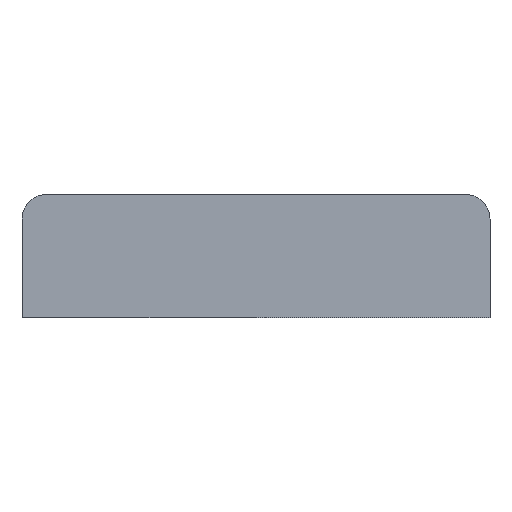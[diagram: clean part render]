
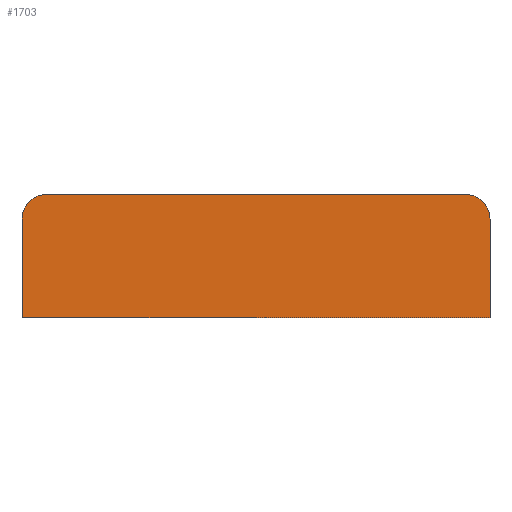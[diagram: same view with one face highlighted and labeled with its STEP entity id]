
A CAD part, front view. The second image highlights one B-rep face of the part: STEP entity #1703.
In plain terms, the highlighted planar face has unit normal (0, -1, 0).
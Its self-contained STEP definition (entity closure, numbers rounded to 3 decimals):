
#23 = EDGE_LOOP ( 'NONE', ( #4854, #3755, #3621, #241, #1923, #709 ) ) ;
#93 = VERTEX_POINT ( 'NONE', #931 ) ;
#108 = CARTESIAN_POINT ( 'NONE',  ( 2., 0., 8. ) ) ;
#124 = VERTEX_POINT ( 'NONE', #3386 ) ;
#137 = PLANE ( 'NONE',  #3930 ) ;
#167 = CARTESIAN_POINT ( 'NONE',  ( 0., 0., 4. ) ) ;
#235 = VERTEX_POINT ( 'NONE', #2213 ) ;
#241 = ORIENTED_EDGE ( 'NONE', *, *, #1345, .F. ) ;
#441 = EDGE_CURVE ( 'NONE', #5180, #2978, #2181, .T. ) ;
#572 = DIRECTION ( 'NONE',  ( 0., 0., -1. ) ) ;
#625 = EDGE_CURVE ( 'NONE', #2978, #3099, #3248, .T. ) ;
#709 = ORIENTED_EDGE ( 'NONE', *, *, #441, .F. ) ;
#918 = CARTESIAN_POINT ( 'NONE',  ( 0., 0., 8. ) ) ;
#931 = CARTESIAN_POINT ( 'NONE',  ( 38., 0., 0. ) ) ;
#1345 = EDGE_CURVE ( 'NONE', #3099, #235, #3304, .T. ) ;
#1354 = DIRECTION ( 'NONE',  ( 1., 0., 0. ) ) ;
#1355 = CARTESIAN_POINT ( 'NONE',  ( 19., 0., 10. ) ) ;
#1397 = VECTOR ( 'NONE', #2196, 1000. ) ;
#1703 = ADVANCED_FACE ( 'NONE', ( #4207 ), #137, .T. ) ;
#1763 = CARTESIAN_POINT ( 'NONE',  ( 19., 0., 0. ) ) ;
#1861 = CARTESIAN_POINT ( 'NONE',  ( 0., 0., 0. ) ) ;
#1923 = ORIENTED_EDGE ( 'NONE', *, *, #625, .F. ) ;
#2087 = LINE ( 'NONE', #2877, #2935 ) ;
#2181 = CIRCLE ( 'NONE', #4639, 2. ) ;
#2196 = DIRECTION ( 'NONE',  ( 1., 0., 0. ) ) ;
#2213 = CARTESIAN_POINT ( 'NONE',  ( 38., 0., 8. ) ) ;
#2270 = VECTOR ( 'NONE', #4302, 1000. ) ;
#2318 = DIRECTION ( 'NONE',  ( 0., 0., 1. ) ) ;
#2423 = CARTESIAN_POINT ( 'NONE',  ( 2., 0., 10. ) ) ;
#2482 = CARTESIAN_POINT ( 'NONE',  ( 36., 0., 10. ) ) ;
#2877 = CARTESIAN_POINT ( 'NONE',  ( 38., 0., 4. ) ) ;
#2935 = VECTOR ( 'NONE', #3303, 1000. ) ;
#2938 = EDGE_CURVE ( 'NONE', #124, #5180, #4431, .T. ) ;
#2978 = VERTEX_POINT ( 'NONE', #2423 ) ;
#3087 = EDGE_CURVE ( 'NONE', #93, #235, #2087, .T. ) ;
#3099 = VERTEX_POINT ( 'NONE', #2482 ) ;
#3129 = DIRECTION ( 'NONE',  ( 0., -1., 0. ) ) ;
#3153 = DIRECTION ( 'NONE',  ( 0., 1., 0. ) ) ;
#3248 = LINE ( 'NONE', #1355, #2270 ) ;
#3303 = DIRECTION ( 'NONE',  ( 0., 0., 1. ) ) ;
#3304 = CIRCLE ( 'NONE', #4064, 2. ) ;
#3336 = VECTOR ( 'NONE', #2318, 1000. ) ;
#3386 = CARTESIAN_POINT ( 'NONE',  ( 0., 0., 0. ) ) ;
#3621 = ORIENTED_EDGE ( 'NONE', *, *, #3087, .T. ) ;
#3755 = ORIENTED_EDGE ( 'NONE', *, *, #4701, .T. ) ;
#3863 = DIRECTION ( 'NONE',  ( 1., 0., 0. ) ) ;
#3930 = AXIS2_PLACEMENT_3D ( 'NONE', #1861, #3129, #572 ) ;
#4064 = AXIS2_PLACEMENT_3D ( 'NONE', #4280, #3153, #3863 ) ;
#4207 = FACE_OUTER_BOUND ( 'NONE', #23, .T. ) ;
#4280 = CARTESIAN_POINT ( 'NONE',  ( 36., 0., 8. ) ) ;
#4302 = DIRECTION ( 'NONE',  ( 1., 0., 0. ) ) ;
#4431 = LINE ( 'NONE', #167, #3336 ) ;
#4639 = AXIS2_PLACEMENT_3D ( 'NONE', #108, #5130, #1354 ) ;
#4701 = EDGE_CURVE ( 'NONE', #124, #93, #4755, .T. ) ;
#4755 = LINE ( 'NONE', #1763, #1397 ) ;
#4854 = ORIENTED_EDGE ( 'NONE', *, *, #2938, .F. ) ;
#5130 = DIRECTION ( 'NONE',  ( 0., 1., 0. ) ) ;
#5180 = VERTEX_POINT ( 'NONE', #918 ) ;
